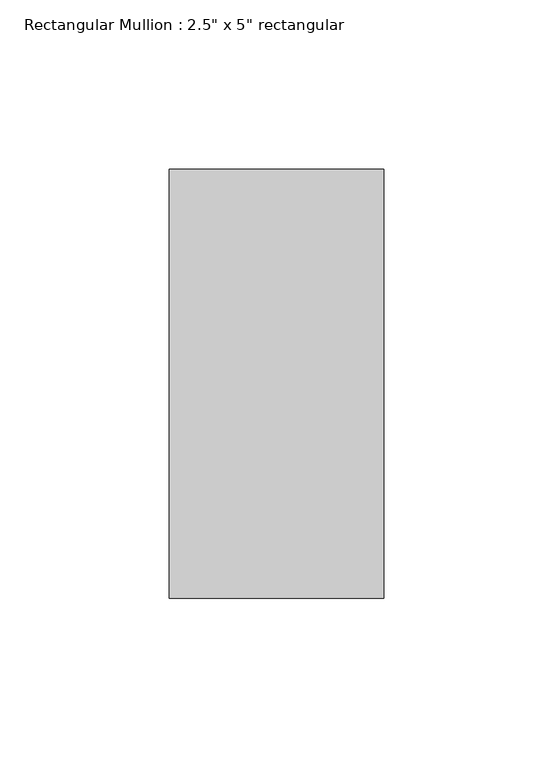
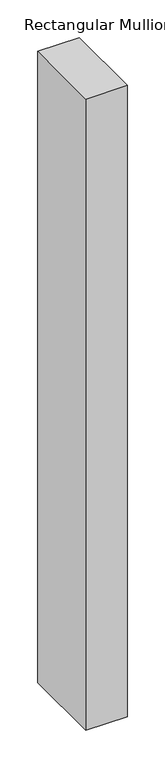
"""IFC4 building model written with IfcOpenShell, lengths in millimetres: member geometry."""

from ifc_helpers import new_model, si_unit, frame, origin, place, context, project, spatial, polyline, outline, extrude, source, transform, mapped, element, save


def member_00c7c6db(model_context):
    return source(origin(), model_context, "Body", "SweptSolid", [
        extrude(outline(polyline([(0.0, 50.8), (0.0, -76.2), (-63.5, -76.2), (-63.5, 50.8), (0.0, 50.8)])), frame((0.0, 0.0, -1020.9461036), z_axis=(0.0, 0.0, 1.0), x_axis=(1.0, 0.0, 0.0)), (0.0, 0.0, 1.0), 1020.9461036),
    ])


if __name__ == "__main__":
    model = new_model("IFC4")
    model_context = context("Model", 3, world=origin())
    ifc_project = project(units=[si_unit("LENGTHUNIT", "METRE", prefix="MILLI")], contexts=[model_context])
    site = spatial("IfcSite", under=ifc_project)
    building = spatial("IfcBuilding", under=site)
    placement = place(None, origin())
    member_shape = member_00c7c6db(model_context)
    element("IfcMember", 1, ObjectType="Rectangular Mullion : 2.5\" x 5\" rectangular", at=placement, inside=building, context=model_context, shape_type="MappedRepresentation", body=[
        mapped(member_shape, transform((0.0, 0.0, 0.0), x_axis=(1.0, 0.0, 0.0), y_axis=(0.0, 1.0, 0.0), z_axis=(0.0, 0.0, 1.0))),
    ])
    save(model, "model.ifc")
